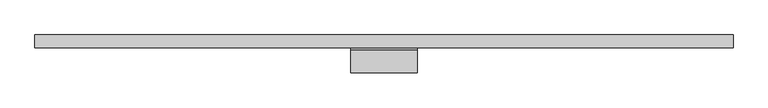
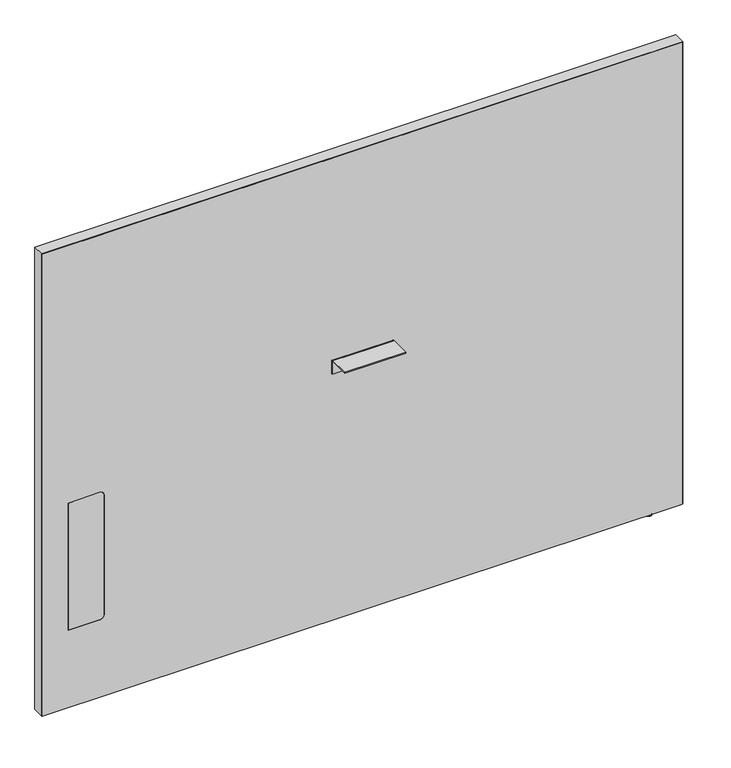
"""IFC4 building model written with IfcOpenShell, lengths in millimetres: furniture geometry, Steelcase - Answer Solution - Boundary Screen - Straight - Single Sided : 48H x 63W."""

from ifc_helpers import new_model, si_unit, point, frame, frame_2d, origin, place, context, project, spatial, polyline, circle_curve, ellipse_curve, trimmed, segment, composite_curve, outline, extrude, source, transform, mapped, element, save
from ifc_brep_helpers import plane_surface, cylinder_surface, revolved_surface, advanced_brep


def furniture_28ada6d6(model_context):
    return source(origin(), model_context, "Body", "SolidModel", [
        extrude(outline(composite_curve([segment(polyline([(-86.8398151, 696.4680019), (-86.8398151, 698.5), (-34.9450855, 698.5)]), True, "CONTINUOUS"), segment(trimmed(circle_curve(frame_2d((-34.9450855, 693.2447477)), 5.2552523), [point((-34.9450855, 698.5))], [point((-29.6898332, 693.2447477))], False, "CARTESIAN"), True, "CONTINUOUS"), segment(polyline([(-29.6898332, 693.2447477), (-29.6898332, 660.4), (-31.7218162, 660.4), (-31.7218162, 693.0058743)]), True, "CONTINUOUS"), segment(trimmed(circle_curve(frame_2d((-35.1839438, 693.0058743)), 3.4621276), [point((-31.7218162, 693.0058743))], [point((-35.1839438, 696.4680019))], True, "CARTESIAN"), True, "CONTINUOUS"), segment(polyline([(-35.1839438, 696.4680019), (-86.8398151, 696.4680019)]), True, "CONTINUOUS")], self_intersect=False)), frame((77.4191407, 0.0, 0.0), z_axis=(1.0, 0.0, 0.0), x_axis=(0.0, 1.0, 0.0)), (0.0, 0.0, 1.0), 152.4000969),
        advanced_brep(
        [(876.5286488, -23.7588726, 9.9059849), (876.5286488, -5.9309607, 9.9059849), (876.5286488, -14.8449166, 9.9059849), (876.5286488, -23.7588726, 2.9673238), (876.5286488, -5.9309607, 2.9673238), (876.5286488, -22.7915354, 2.9673238), (876.5286488, -6.8982978, 2.9673238), (876.5286488, -22.7915354, 1.6569081), (876.5286488, -6.8982978, 1.6569081), (876.5286488, -21.1346274, 0.0), (876.5286488, -8.5552059, 0.0), (876.5286488, -14.8449166, 0.0)],
        [
            (0, 1, circle_curve(frame((876.5286488, -14.8449166, 9.9059849), z_axis=(0.0, 0.0, 1.0), x_axis=(0.0, 1.0, 0.0)), 8.913956)),
            (1, 2),
            (2, 0),
            (1, 0, circle_curve(frame((876.5286488, -14.8449166, 9.9059849), z_axis=(0.0, 0.0, 1.0), x_axis=(0.0, 1.0, 0.0)), 8.913956)),
            (3, 4, circle_curve(frame((876.5286488, -14.8449166, 2.9673238), z_axis=(0.0, 0.0, 1.0), x_axis=(0.0, 1.0, 0.0)), 8.913956)),
            (4, 1),
            (0, 3),
            (4, 3, circle_curve(frame((876.5286488, -14.8449166, 2.9673238), z_axis=(0.0, 0.0, 1.0), x_axis=(0.0, 1.0, 0.0)), 8.913956)),
            (5, 6, circle_curve(frame((876.5286488, -14.8449166, 2.9673238), z_axis=(0.0, 0.0, 1.0), x_axis=(0.0, 1.0, 0.0)), 7.9466188)),
            (6, 4),
            (3, 5),
            (6, 5, circle_curve(frame((876.5286488, -14.8449166, 2.9673238), z_axis=(0.0, 0.0, 1.0), x_axis=(0.0, 1.0, 0.0)), 7.9466188)),
            (7, 8, circle_curve(frame((876.5286488, -14.8449166, 1.6569081), z_axis=(0.0, 0.0, 1.0), x_axis=(0.0, 1.0, 0.0)), 7.9466188)),
            (8, 6),
            (5, 7),
            (8, 7, circle_curve(frame((876.5286488, -14.8449166, 1.6569081), z_axis=(0.0, 0.0, 1.0), x_axis=(0.0, 1.0, 0.0)), 7.9466188)),
            (9, 10, circle_curve(frame((876.5286488, -14.8449166, 0.0), z_axis=(0.0, 0.0, 1.0), x_axis=(0.0, 1.0, 0.0)), 6.2897107)),
            (10, 8, circle_curve(frame((876.5286488, -8.5552059, 1.6569081), z_axis=(1.0, 0.0, 0.0), x_axis=(0.0, 1.0, 0.0)), 1.6569081)),
            (7, 9, circle_curve(frame((876.5286488, -21.1346274, 1.6569081), z_axis=(1.0, 0.0, 0.0), x_axis=(0.0, -1.0, 0.0)), 1.6569081)),
            (10, 9, circle_curve(frame((876.5286488, -14.8449166, 0.0), z_axis=(0.0, 0.0, 1.0), x_axis=(0.0, 1.0, 0.0)), 6.2897107)),
            (11, 10),
            (9, 11),
        ],
        [
            plane_surface(frame((876.5286488, -14.8449166, 9.9059849), z_axis=(0.0, 0.0, 1.0), x_axis=(0.0, 1.0, 0.0))),
            cylinder_surface(frame((876.5286488, -14.8449166, 9.9059849), z_axis=(0.0, 0.0, -1.0), x_axis=(0.0, 1.0, 0.0)), 8.913956),
            plane_surface(frame((876.5286488, -14.8449166, 2.9673238), z_axis=(0.0, 0.0, -1.0), x_axis=(0.0, 1.0, 0.0))),
            cylinder_surface(frame((876.5286488, -14.8449166, 9.9059849), z_axis=(0.0, 0.0, -1.0), x_axis=(0.0, 1.0, 0.0)), 7.9466188),
            revolved_surface(trimmed(ellipse_curve(frame((876.5286488, -8.5552059, 1.6569081), z_axis=(-1.0, 0.0, 0.0), x_axis=(0.0, 1.0, 0.0)), 1.6569081, 1.6569081), [point((876.5286488, -6.8982978, 1.6569081))], [point((876.5286488, -8.5552059, 0.0))], True, "CARTESIAN"), (876.5286488, -14.8449166, 9.9059849), (0.0, 0.0, -1.0)),
            plane_surface(frame((876.5286488, -14.8449166, 0.0), z_axis=(0.0, 0.0, -1.0), x_axis=(0.0, 1.0, 0.0))),
        ],
        [
            (0, [[1, 2, 3]]),
            (0, [[4, -3, -2]]),
            (1, [[5, 6, -1, 7]]),
            (1, [[8, -7, -4, -6]]),
            (2, [[9, 10, -5, 11]]),
            (2, [[12, -11, -8, -10]]),
            (3, [[13, 14, -9, 15]]),
            (3, [[16, -15, -12, -14]]),
            (4, [[17, 18, -13, 19]]),
            (4, [[20, -19, -16, -18]]),
            (5, [[21, -17, 22]]),
            (5, [[-22, -20, -21]]),
        ],
    ),
        advanced_brep(
        [(952.6780168, 0.0, 1229.142118), (952.6780168, 0.0, 9.9059849), (-645.4902221, 0.0, 9.9059849), (-645.4902221, 0.0, 1229.142118), (952.6780168, -29.6898332, 1229.142118), (-645.4902221, -29.6898332, 1229.142118), (-645.4902221, -29.6898332, 9.9059849), (952.6780168, -29.6898332, 9.9059849), (-501.1463873, -29.6898332, 549.6162029), (-490.9863873, -29.6898332, 539.4562029), (-490.9863873, -29.6898332, 223.9362137), (-501.1463873, -29.6898332, 213.7762137), (-580.800285, -29.6898332, 213.7762137), (-580.800285, -29.6898332, 549.6162029), (-580.800285, -29.0550397, 549.6162029), (-501.1463873, -29.0550397, 549.6162029), (-580.800285, -29.0550397, 213.7762137), (-501.1463873, -29.0550397, 213.7762137), (-490.9863873, -29.0550397, 223.9362137), (-490.9863873, -29.0550397, 539.4562029)],
        [
            (0, 1),
            (1, 2),
            (2, 3),
            (3, 0),
            (4, 5),
            (5, 6),
            (6, 7),
            (7, 4),
            (8, 9, circle_curve(frame((-501.1463873, -29.6898332, 539.4562029), z_axis=(0.0, 1.0, 0.0), x_axis=(0.0, 0.0, 1.0)), 10.16)),
            (9, 10),
            (10, 11, circle_curve(frame((-501.1463873, -29.6898332, 223.9362137), z_axis=(0.0, 1.0, 0.0), x_axis=(0.0, 0.0, 1.0)), 10.16)),
            (11, 12),
            (12, 13),
            (13, 8),
            (0, 4),
            (7, 1),
            (6, 2),
            (5, 3),
            (13, 14),
            (14, 15),
            (15, 8),
            (12, 16),
            (16, 14),
            (11, 17),
            (17, 16),
            (10, 18),
            (18, 17, circle_curve(frame((-501.1463873, -29.0550397, 223.9362137), z_axis=(0.0, 1.0, 0.0), x_axis=(0.0, 0.0, 1.0)), 10.16)),
            (9, 19),
            (19, 18),
            (15, 19, circle_curve(frame((-501.1463873, -29.0550397, 539.4562029), z_axis=(0.0, 1.0, 0.0), x_axis=(0.0, 0.0, 1.0)), 10.16)),
        ],
        [
            plane_surface(frame((952.6780168, 0.0, 1229.142118), z_axis=(0.0, 1.0, 0.0), x_axis=(0.0, 0.0, -1.0))),
            plane_surface(frame((952.6780168, -29.6898332, 1229.142118), z_axis=(0.0, -1.0, 0.0), x_axis=(0.0, 0.0, 1.0))),
            plane_surface(frame((952.6780168, 0.0, 1229.142118), z_axis=(1.0, 0.0, 0.0), x_axis=(0.0, -1.0, 0.0))),
            plane_surface(frame((952.6780168, 0.0, 9.9059849), z_axis=(0.0, 0.0, -1.0), x_axis=(0.0, -1.0, 0.0))),
            plane_surface(frame((-645.4902221, 0.0, 9.9059849), z_axis=(-1.0, 0.0, 0.0), x_axis=(0.0, -1.0, 0.0))),
            plane_surface(frame((-645.4902221, 0.0, 1229.142118), z_axis=(0.0, 0.0, 1.0), x_axis=(0.0, -1.0, 0.0))),
            plane_surface(frame((-501.1463873, 0.0, 549.6162029), z_axis=(0.0, 0.0, -1.0), x_axis=(0.0, -1.0, 0.0))),
            plane_surface(frame((-580.800285, 0.0, 549.6162029), z_axis=(1.0, 0.0, 0.0), x_axis=(0.0, -1.0, 0.0))),
            plane_surface(frame((-580.800285, 0.0, 213.7762137), z_axis=(0.0, 0.0, 1.0), x_axis=(0.0, -1.0, 0.0))),
            revolved_surface(polyline([(-501.1463873, -29.6898332, 234.0962137), (-501.1463873, -29.0550397, 234.0962137)]), (-501.1463873, -29.6898332, 223.9362137), (0.0, -1.0, 0.0)),
            plane_surface(frame((-490.9863873, 0.0, 223.9362137), z_axis=(-1.0, 0.0, 0.0), x_axis=(0.0, -1.0, 0.0))),
            revolved_surface(polyline([(-501.1463873, -29.6898332, 549.6162029), (-501.1463873, -29.0550397, 549.6162029)]), (-501.1463873, -29.6898332, 539.4562029), (0.0, -1.0, 0.0)),
            plane_surface(frame((-490.9863873, -29.0550397, 629.172953), z_axis=(0.0, -1.0, 0.0), x_axis=(0.0, 0.0, 1.0))),
        ],
        [
            (0, [[1, 2, 3, 4]]),
            (1, [[5, 6, 7, 8], [9, 10, 11, 12, 13, 14]]),
            (2, [[-1, 15, -8, 16]]),
            (3, [[-2, -16, -7, 17]]),
            (4, [[-3, -17, -6, 18]]),
            (5, [[-4, -18, -5, -15]]),
            (6, [[-14, 19, 20, 21]]),
            (7, [[-13, 22, 23, -19]]),
            (8, [[-12, 24, 25, -22]]),
            (9, [[-11, 26, 27, -24]]),
            (10, [[-10, 28, 29, -26]]),
            (11, [[-9, -21, 30, -28]]),
            (12, [[-20, -23, -25, -27, -29, -30]]),
        ],
    ),
        extrude(outline(composite_curve([segment(polyline([(549.6162029, -501.1463873), (549.6162029, -580.800285), (213.7762137, -580.800285), (213.7762137, -501.1463873)]), True, "CONTINUOUS"), segment(trimmed(circle_curve(frame_2d((223.9362137, -501.1463873)), 10.16), [point((213.7762137, -501.1463873))], [point((223.9362137, -490.9863873))], False, "CARTESIAN"), True, "CONTINUOUS"), segment(polyline([(223.9362137, -490.9863873), (539.4562029, -490.9863873)]), True, "CONTINUOUS"), segment(trimmed(circle_curve(frame_2d((539.4562029, -501.1463873)), 10.16), [point((539.4562029, -490.9863873))], [point((549.6162029, -501.1463873))], False, "CARTESIAN"), True, "CONTINUOUS")], self_intersect=False)), frame((0.0, -29.6898332, 0.0), z_axis=(0.0, 1.0, 0.0), x_axis=(0.0, 0.0, 1.0)), (0.0, 0.0, 1.0), 0.6347935),
        extrude(outline(polyline([(1230.122, 953.7191891), (1230.122, -646.4808109), (9.9059849, -646.4808109), (9.9059849, -645.4902221), (1229.142118, -645.4902221), (1229.142118, 952.6780168), (9.9059849, 952.6780168), (9.9059849, 953.7191891), (1230.122, 953.7191891)])), frame((0.0, -29.6898332, 0.0), z_axis=(0.0, 1.0, 0.0), x_axis=(0.0, 0.0, 1.0)), (0.0, 0.0, 1.0), 29.6898332),
    ])


if __name__ == "__main__":
    model = new_model("IFC4")
    model_context = context("Model", 3, world=origin())
    ifc_project = project(units=[si_unit("LENGTHUNIT", "METRE", prefix="MILLI")], contexts=[model_context])
    site = spatial("IfcSite", under=ifc_project)
    building = spatial("IfcBuilding", under=site)
    placement = place(None, origin())
    furniture_shape = furniture_28ada6d6(model_context)
    element("IfcFurniture", 1, ObjectType="Steelcase - Answer Solution - Boundary Screen - Straight - Single Sided : 48H x 63W", at=placement, inside=building, context=model_context, shape_type="MappedRepresentation", body=[
        mapped(furniture_shape, transform((0.0, 0.0, 0.0), x_axis=(1.0, 0.0, 0.0), y_axis=(0.0, 1.0, 0.0), z_axis=(0.0, 0.0, 1.0))),
    ])
    save(model, "model.ifc")
